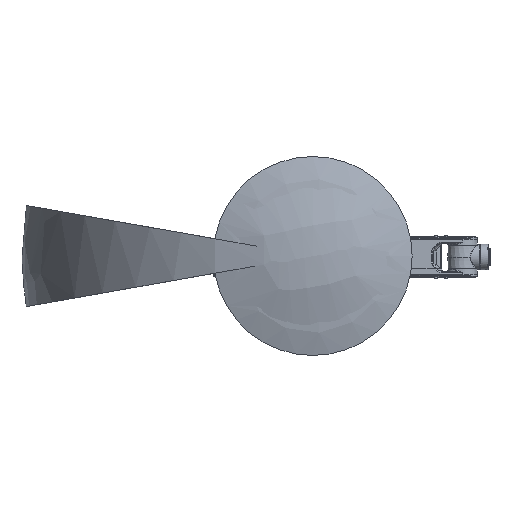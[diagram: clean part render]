
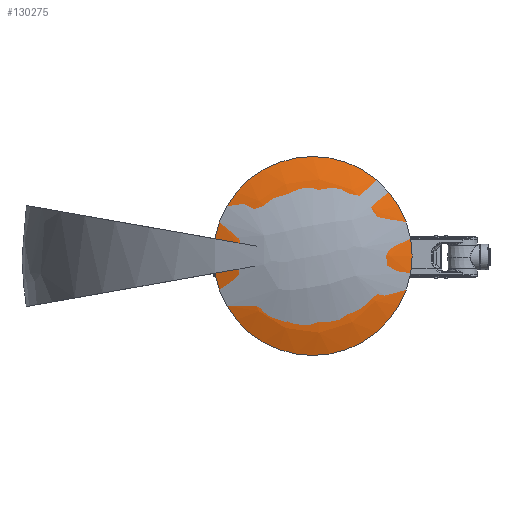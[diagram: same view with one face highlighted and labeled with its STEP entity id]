
A CAD part, front view. The second image highlights one B-rep face of the part: STEP entity #130275.
In plain terms, the highlighted free-form (B-spline) face has degree [3, 3] with [4, 7] control points.
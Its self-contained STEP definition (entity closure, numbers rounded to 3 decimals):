
#7190 = CARTESIAN_POINT ( 'NONE',  ( -417.662, -1165.219, -73.645 ) ) ;
#8141 = CARTESIAN_POINT ( 'NONE',  ( 130.005, -1201.452, 0. ) ) ;
#8473 = CARTESIAN_POINT ( 'NONE',  ( -371.048, -1180.938, -65.426 ) ) ;
#9445 = CARTESIAN_POINT ( 'NONE',  ( 229.949, -1211.874, -390.141 ) ) ;
#9787 = CARTESIAN_POINT ( 'NONE',  ( -244.458, -1203.158, -43.105 ) ) ;
#10539 = CARTESIAN_POINT ( 'NONE',  ( -289.926, -1198.002, 51.122 ) ) ;
#10877 = CARTESIAN_POINT ( 'NONE',  ( -417.662, -1165.219, 73.645 ) ) ;
#11816 = CARTESIAN_POINT ( 'NONE',  ( -225.894, -1204.752, 39.831 ) ) ;
#13099 = CARTESIAN_POINT ( 'NONE',  ( -417.662, -1165.219, 73.645 ) ) ;
#14425 = CARTESIAN_POINT ( 'NONE',  ( -277.737, -1199.702, 48.973 ) ) ;
#26503 = CARTESIAN_POINT ( 'NONE',  ( 0., -1201.452, 0. ) ) ;
#26585 = CARTESIAN_POINT ( 'NONE',  ( -227.541, -1199.587, -608.1 ) ) ;
#27900 = CARTESIAN_POINT ( 'NONE',  ( 424.105, -1165.219, 0. ) ) ;
#28962 = CARTESIAN_POINT ( 'NONE',  ( -152.534, -1204.047, 26.896 ) ) ;
#29164 = CARTESIAN_POINT ( 'NONE',  ( -227.541, -1199.587, 608.1 ) ) ;
#30441 = CARTESIAN_POINT ( 'NONE',  ( 229.949, -1211.874, 390.141 ) ) ;
#31563 = CARTESIAN_POINT ( 'NONE',  ( -280.784, -1199.299, 49.51 ) ) ;
#31758 = CARTESIAN_POINT ( 'NONE',  ( -158.708, -1211.874, 424.144 ) ) ;
#32825 = CARTESIAN_POINT ( 'NONE',  ( -286.878, -1198.45, 50.584 ) ) ;
#36473 = CARTESIAN_POINT ( 'NONE',  ( 0., -1165.219, 0. ) ) ;
#40648 = ORIENTED_EDGE ( 'NONE', *, *, #64816, .T. ) ;
#41986 = ORIENTED_EDGE ( 'NONE', *, *, #73531, .T. ) ;
#44964 = DIRECTION ( 'NONE',  ( 1., 0., 0. ) ) ;
#47623 = CARTESIAN_POINT ( 'NONE',  ( 424.105, -1165.219, -719.555 ) ) ;
#49268 = CARTESIAN_POINT ( 'NONE',  ( -152.534, -1204.047, -26.896 ) ) ;
#50552 = CARTESIAN_POINT ( 'NONE',  ( -268.961, -1200.779, -47.425 ) ) ;
#59551 = ORIENTED_EDGE ( 'NONE', *, *, #84324, .F. ) ;
#64558 = EDGE_CURVE ( 'NONE', #140684, #214793, #187886, .T. ) ;
#64816 = EDGE_CURVE ( 'NONE', #71392, #241833, #100315, .T. ) ;
#67355 = CARTESIAN_POINT ( 'NONE',  ( -292.712, -1165.219, -782.269 ) ) ;
#68655 = CARTESIAN_POINT ( 'NONE',  ( 424.105, -1165.219, 719.555 ) ) ;
#68997 = CARTESIAN_POINT ( 'NONE',  ( -272.013, -1200.418, -47.963 ) ) ;
#71392 = VERTEX_POINT ( 'NONE', #10877 ) ;
#72314 = CARTESIAN_POINT ( 'NONE',  ( -128.03, -1201.452, 22.575 ) ) ;
#73531 = EDGE_CURVE ( 'NONE', #241833, #140684, #103190, .T. ) ;
#83792 = AXIS2_PLACEMENT_3D ( 'NONE', #36473, #141626, #177156 ) ;
#84324 = EDGE_CURVE ( 'NONE', #71392, #214793, #197152, .T. ) ;
#86098 = CARTESIAN_POINT ( 'NONE',  ( -262.846, -1201.456, -46.347 ) ) ;
#87377 = CARTESIAN_POINT ( 'NONE',  ( -323.513, -1192.539, -57.044 ) ) ;
#88320 = CARTESIAN_POINT ( 'NONE',  ( 229.949, -1211.874, 0. ) ) ;
#88660 = CARTESIAN_POINT ( 'NONE',  ( -259.783, -1201.773, -45.807 ) ) ;
#91991 = CARTESIAN_POINT ( 'NONE',  ( -250.307, -1203.125, 44.136 ) ) ;
#93271 = CARTESIAN_POINT ( 'NONE',  ( -299.057, -1196.594, 52.732 ) ) ;
#94702 = AXIS2_PLACEMENT_3D ( 'NONE', #26503, #165903, #44964 ) ;
#100315 = B_SPLINE_CURVE_WITH_KNOTS ( 'NONE', 3,
 ( #13099, #109142, #211727, #132795, #135390, #231466, #93271, #10539, #32825, #31563, #14425, #91991, #11816, #153812, #28962, #72314 ),
 .UNSPECIFIED., .F., .F.,
 ( 4, 2, 2, 2, 2, 2, 2, 4 ),
 ( 0., 0.075, 0.112, 0.131, 0.14, 0.149, 0.224, 0.299 ),
 .UNSPECIFIED. ) ;
#103190 = CIRCLE ( 'NONE', #94702, 130.005 ) ;
#106752 = CARTESIAN_POINT ( 'NONE',  ( 329.68, -1199.587, 0. ) ) ;
#108059 = CARTESIAN_POINT ( 'NONE',  ( -292.712, -1165.219, 782.269 ) ) ;
#109142 = CARTESIAN_POINT ( 'NONE',  ( -394.511, -1173.775, 69.563 ) ) ;
#121230 = CARTESIAN_POINT ( 'NONE',  ( -417.662, -1165.219, -73.645 ) ) ;
#129452 = CARTESIAN_POINT ( 'NONE',  ( -128.03, -1201.452, -22.575 ) ) ;
#130275 = ADVANCED_FACE ( 'NONE', ( #229116 ), #228248, .T. ) ;
#131608 = CARTESIAN_POINT ( 'NONE',  ( -128.03, -1201.452, -22.575 ) ) ;
#131685 = CARTESIAN_POINT ( 'NONE',  ( -226.455, -1211.874, -39.93 ) ) ;
#132795 = CARTESIAN_POINT ( 'NONE',  ( -335.26, -1189.67, 59.115 ) ) ;
#135390 = CARTESIAN_POINT ( 'NONE',  ( -323.257, -1192.236, 56.999 ) ) ;
#140684 = VERTEX_POINT ( 'NONE', #131608 ) ;
#141626 = DIRECTION ( 'NONE',  ( 0., 1., 0. ) ) ;
#147894 = CARTESIAN_POINT ( 'NONE',  ( -213.812, -1204.863, -37.701 ) ) ;
#148865 = CARTESIAN_POINT ( 'NONE',  ( 130.005, -1201.452, -220.573 ) ) ;
#150478 = CARTESIAN_POINT ( 'NONE',  ( -226.07, -1204.394, -39.862 ) ) ;
#151410 = CARTESIAN_POINT ( 'NONE',  ( -128.03, -1201.452, 22.575 ) ) ;
#152709 = CARTESIAN_POINT ( 'NONE',  ( -158.708, -1211.874, -424.144 ) ) ;
#153812 = CARTESIAN_POINT ( 'NONE',  ( -177.007, -1205.212, 31.211 ) ) ;
#165903 = DIRECTION ( 'NONE',  ( 0., 1., 0. ) ) ;
#168570 = CARTESIAN_POINT ( 'NONE',  ( 329.68, -1199.587, -559.349 ) ) ;
#169878 = CARTESIAN_POINT ( 'NONE',  ( -226.455, -1211.874, 39.93 ) ) ;
#172426 = CARTESIAN_POINT ( 'NONE',  ( -89.728, -1201.452, -239.797 ) ) ;
#177156 = DIRECTION ( 'NONE',  ( 1., 0., 0. ) ) ;
#178212 = EDGE_LOOP ( 'NONE', ( #40648, #41986, #183985, #59551 ) ) ;
#183985 = ORIENTED_EDGE ( 'NONE', *, *, #64558, .T. ) ;
#186996 = CARTESIAN_POINT ( 'NONE',  ( 329.68, -1199.587, 559.349 ) ) ;
#187886 = B_SPLINE_CURVE_WITH_KNOTS ( 'NONE', 3,
 ( #129452, #49268, #229449, #147894, #150478, #9787, #230719, #88660, #86098, #50552, #68997, #205752, #87377, #8473, #210964, #7190 ),
 .UNSPECIFIED., .F., .F.,
 ( 4, 2, 2, 2, 2, 2, 2, 4 ),
 ( 0., 0.075, 0.112, 0.131, 0.14, 0.149, 0.224, 0.299 ),
 .UNSPECIFIED. ) ;
#188289 = CARTESIAN_POINT ( 'NONE',  ( -128.03, -1201.452, -22.575 ) ) ;
#197152 = CIRCLE ( 'NONE', #83792, 424.105 ) ;
#205752 = CARTESIAN_POINT ( 'NONE',  ( -299.442, -1196.979, -52.8 ) ) ;
#208040 = CARTESIAN_POINT ( 'NONE',  ( -324.671, -1199.587, 57.248 ) ) ;
#210628 = CARTESIAN_POINT ( 'NONE',  ( 130.005, -1201.452, 220.573 ) ) ;
#210673 = CARTESIAN_POINT ( 'NONE',  ( -128.03, -1201.452, 22.575 ) ) ;
#210964 = CARTESIAN_POINT ( 'NONE',  ( -394.511, -1173.775, -69.563 ) ) ;
#211727 = CARTESIAN_POINT ( 'NONE',  ( -371.014, -1180.95, 65.42 ) ) ;
#214793 = VERTEX_POINT ( 'NONE', #121230 ) ;
#228248 =( BOUNDED_SURFACE ( )  B_SPLINE_SURFACE ( 3, 3, ( 
 ( #188289, #172426, #148865, #8141, #210628, #251333, #151410 ),
 ( #131685, #152709, #9445, #88320, #30441, #31758, #169878 ),
 ( #232944, #26585, #168570, #106752, #186996, #29164, #208040 ),
 ( #247487, #67355, #47623, #27900, #68655, #108059, #248782 ) ),
 .UNSPECIFIED., .F., .F., .F. ) 
 B_SPLINE_SURFACE_WITH_KNOTS ( ( 4, 4 ),
 ( 4, 3, 4 ),
 ( 0., 1. ),
 ( 0., 0.5, 1. ),
 .UNSPECIFIED. ) 
 GEOMETRIC_REPRESENTATION_ITEM ( )  RATIONAL_B_SPLINE_SURFACE ( (
 ( 1., 0.391, 0.391, 1., 0.391, 0.391, 1.),
 ( 0.983, 0.385, 0.385, 0.983, 0.385, 0.385, 0.983),
 ( 0.983, 0.385, 0.385, 0.983, 0.385, 0.385, 0.983),
 ( 1., 0.391, 0.391, 1., 0.391, 0.391, 1.) ) ) 
 REPRESENTATION_ITEM ( '' )  SURFACE ( )  );
#229116 = FACE_OUTER_BOUND ( 'NONE', #178212, .T. ) ;
#229449 = CARTESIAN_POINT ( 'NONE',  ( -177.043, -1205.216, -31.217 ) ) ;
#230719 = CARTESIAN_POINT ( 'NONE',  ( -250.588, -1202.658, -44.185 ) ) ;
#231466 = CARTESIAN_POINT ( 'NONE',  ( -305.123, -1195.569, 53.801 ) ) ;
#232944 = CARTESIAN_POINT ( 'NONE',  ( -324.671, -1199.587, -57.248 ) ) ;
#241833 = VERTEX_POINT ( 'NONE', #210673 ) ;
#247487 = CARTESIAN_POINT ( 'NONE',  ( -417.662, -1165.219, -73.645 ) ) ;
#248782 = CARTESIAN_POINT ( 'NONE',  ( -417.662, -1165.219, 73.645 ) ) ;
#251333 = CARTESIAN_POINT ( 'NONE',  ( -89.728, -1201.452, 239.797 ) ) ;
